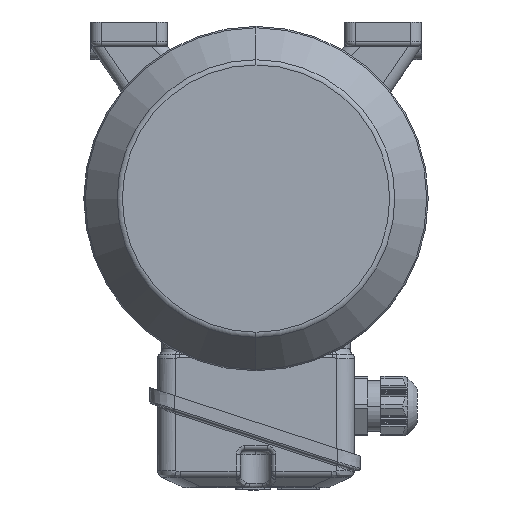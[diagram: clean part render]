
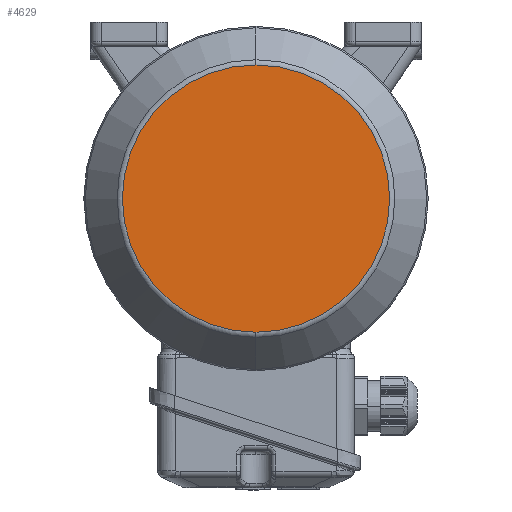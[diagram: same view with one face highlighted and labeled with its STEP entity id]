
A CAD part, left-side view. The second image highlights one B-rep face of the part: STEP entity #4629.
In plain terms, the highlighted planar face has unit normal (-1, 0, 0).
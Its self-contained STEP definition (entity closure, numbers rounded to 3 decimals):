
#3109 = VERTEX_POINT ( 'NONE', #36291 ) ;
#3404 = DIRECTION ( 'NONE',  ( 1., 0., 0. ) ) ;
#4629 = ADVANCED_FACE ( 'NONE', ( #45038 ), #31817, .T. ) ;
#4781 = EDGE_CURVE ( 'NONE', #3109, #42429, #36800, .T. ) ;
#7814 = DIRECTION ( 'NONE',  ( 0., 0., -1. ) ) ;
#8710 = ORIENTED_EDGE ( 'NONE', *, *, #4781, .F. ) ;
#12114 = DIRECTION ( 'NONE',  ( 0., 0., -1. ) ) ;
#12933 = CARTESIAN_POINT ( 'NONE',  ( -142.65, 0., -60.537 ) ) ;
#19482 = CARTESIAN_POINT ( 'NONE',  ( -142.65, 0., 0. ) ) ;
#20082 = ORIENTED_EDGE ( 'NONE', *, *, #39643, .F. ) ;
#24475 = AXIS2_PLACEMENT_3D ( 'NONE', #19482, #41739, #7814 ) ;
#26111 = EDGE_LOOP ( 'NONE', ( #20082, #8710 ) ) ;
#31225 = CARTESIAN_POINT ( 'NONE',  ( -142.65, 0., -60.537 ) ) ;
#31817 = PLANE ( 'NONE',  #35217 ) ;
#33160 = CIRCLE ( 'NONE', #39127, 60.537 ) ;
#33294 = CARTESIAN_POINT ( 'NONE',  ( -142.65, 0., 0. ) ) ;
#35217 = AXIS2_PLACEMENT_3D ( 'NONE', #12933, #39439, #39281 ) ;
#36291 = CARTESIAN_POINT ( 'NONE',  ( -142.65, 0., 60.537 ) ) ;
#36800 = CIRCLE ( 'NONE', #24475, 60.537 ) ;
#39127 = AXIS2_PLACEMENT_3D ( 'NONE', #33294, #3404, #12114 ) ;
#39281 = DIRECTION ( 'NONE',  ( 0., 1., 0. ) ) ;
#39439 = DIRECTION ( 'NONE',  ( -1., 0., 0. ) ) ;
#39643 = EDGE_CURVE ( 'NONE', #42429, #3109, #33160, .T. ) ;
#41739 = DIRECTION ( 'NONE',  ( 1., 0., 0. ) ) ;
#42429 = VERTEX_POINT ( 'NONE', #31225 ) ;
#45038 = FACE_OUTER_BOUND ( 'NONE', #26111, .T. ) ;
